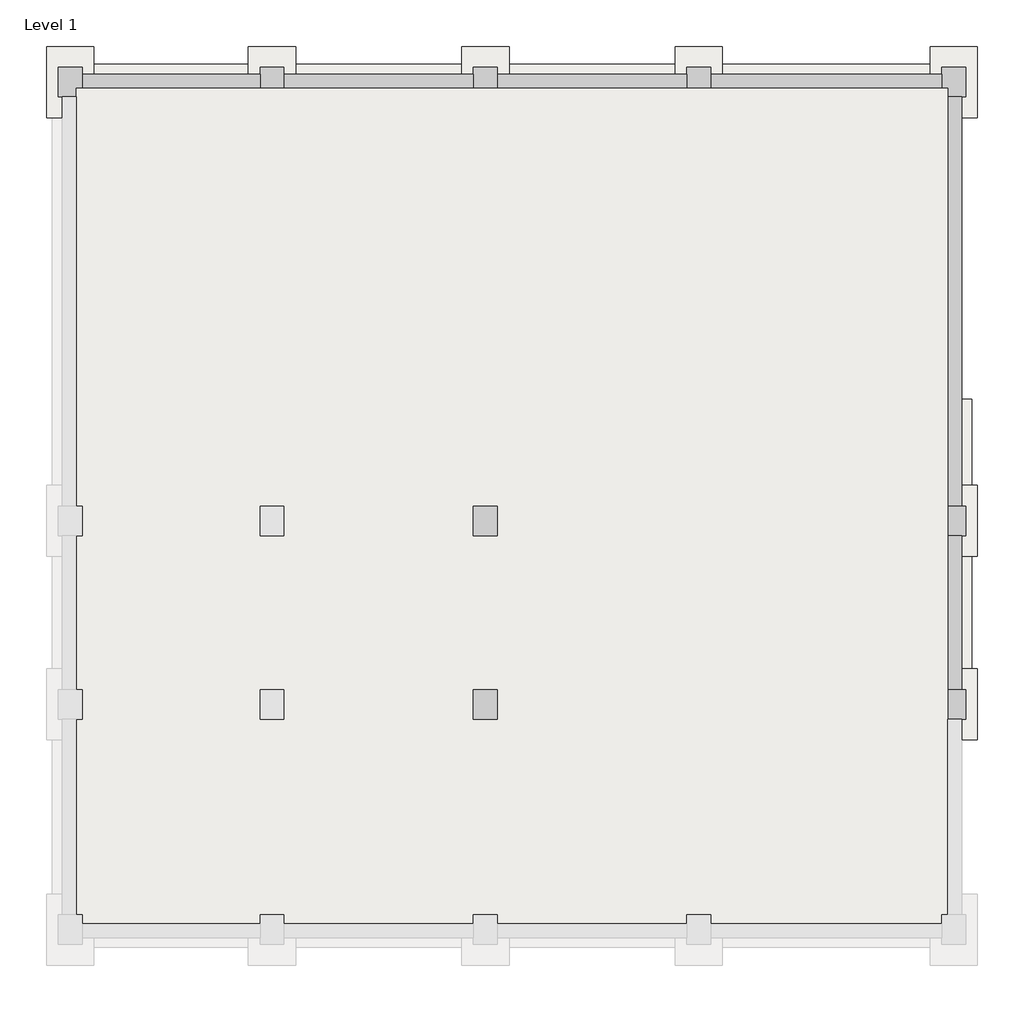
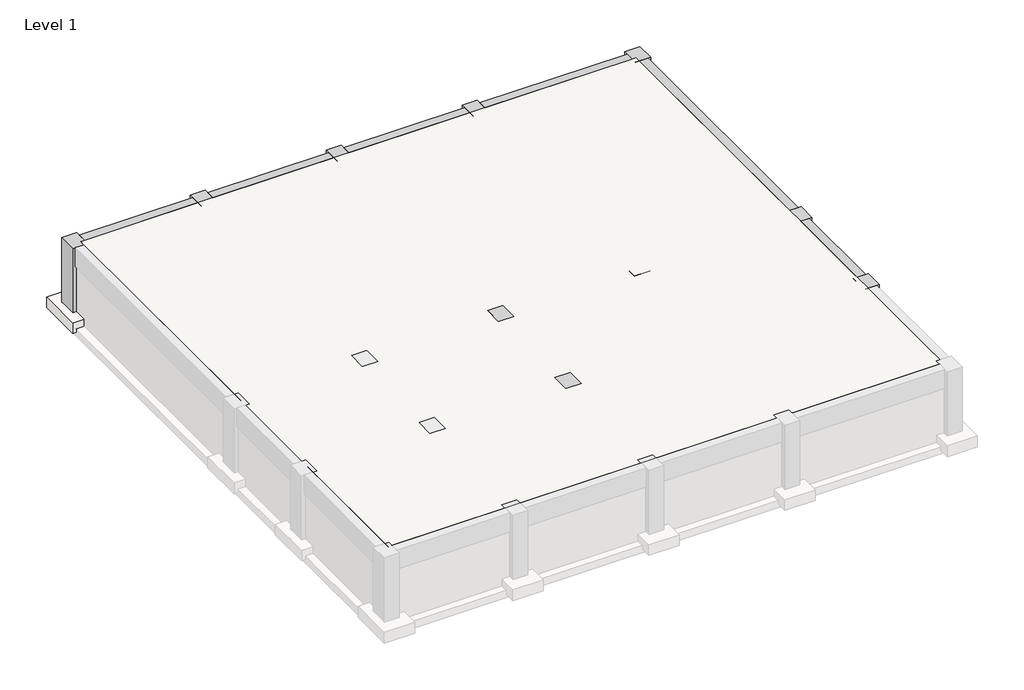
# One storey, part 2 of 2: 16 beams, 12 slabs, 11 columns, 2 footings.
"""IFC4 building model written with IfcOpenShell, lengths in millimetres."""

import ifcopenshell
import ifcopenshell.guid

model = None  # the IFC model being written
_history = None  # IfcOwnerHistory: only IFC2X3 demands one
_inside = {}  # id of a spatial element -> (the spatial element, [elements in it])
_under = {}  # id of a project, library or spatial element -> (it, [spatial elements below it])
_declared = {}  # id of a project -> (the project, [libraries it declares])
_typed = {}  # id of a type object -> (the type object, [elements of that type])
_made_of = {}  # id of a material, layer set ... -> (it, [elements and type objects made of it])


def new_model(schema):
    """Start an empty IFC model of exactly this schema.

    Asked for "IFC4X3", IfcOpenShell would pick the latest addendum, in which some entities
    have other attributes; the version numbers below select the first issue.
    IFC2X3 requires an IfcOwnerHistory on every rooted entity: one is made here for all.
    """
    global model, _history
    if schema == "IFC4X3":
        model = ifcopenshell.file(schema_version=(4, 3, 0, 0))
    else:
        model = ifcopenshell.file(schema=schema)
    _inside.clear()
    _under.clear()
    _declared.clear()
    _typed.clear()
    _made_of.clear()
    _history = None
    if model.schema == "IFC2X3":
        org = make("IfcOrganization", Name="unknown")
        user = make(
            "IfcPersonAndOrganization",
            ThePerson=make("IfcPerson", FamilyName="unknown"),
            TheOrganization=org,
        )
        app = make(
            "IfcApplication",
            ApplicationDeveloper=org,
            Version="unknown",
            ApplicationFullName="unknown",
            ApplicationIdentifier="unknown",
        )
        _history = make(
            "IfcOwnerHistory",
            OwningUser=user,
            OwningApplication=app,
            ChangeAction="ADDED",
            CreationDate=0,
        )
    return model


def make(cls, **values):
    """One entity of the class cls with the attributes given. An attribute that is None is left unset."""
    return model.create_entity(
        cls, **{name: value for name, value in values.items() if value is not None}
    )


def rooted(cls, **values):
    """An entity with a GlobalId (a new one), such as an element, a storey or a relation."""
    return make(cls, GlobalId=ifcopenshell.guid.new(), OwnerHistory=_history, **values)


def si_unit(unit_type, name, prefix=None):
    """IfcSIUnit, for example si_unit("LENGTHUNIT", "METRE", prefix="MILLI")."""
    return make("IfcSIUnit", UnitType=unit_type, Prefix=prefix, Name=name)


def assignment(units):
    """IfcUnitAssignment: the units of a project."""
    return None if units is None else make("IfcUnitAssignment", Units=units)


def point(xyz):
    """IfcCartesianPoint."""
    return None if xyz is None else make("IfcCartesianPoint", Coordinates=xyz)


def direction(xyz):
    """IfcDirection."""
    return None if xyz is None else make("IfcDirection", DirectionRatios=xyz)


def frame(location, z_axis=None, x_axis=None):
    """IfcAxis2Placement3D, a coordinate frame: its origin and axes. An axis left out is left unset."""
    return make(
        "IfcAxis2Placement3D",
        Location=point(location),
        Axis=direction(z_axis),
        RefDirection=direction(x_axis),
    )


def origin():
    """The frame at (0, 0, 0) with its axes left unset."""
    return frame((0.0, 0.0, 0.0))


def place(relative_to, where):
    """IfcLocalPlacement: puts the frame where relative to a parent placement (None: the world)."""
    return make(
        "IfcLocalPlacement", PlacementRelTo=relative_to, RelativePlacement=where
    )


def context(
    kind, dimensions, precision=None, world=None, true_north=None, identifier=None
):
    """IfcGeometricRepresentationContext, for example the 3D "Model" context."""
    return make(
        "IfcGeometricRepresentationContext",
        ContextIdentifier=identifier,
        ContextType=kind,
        CoordinateSpaceDimension=dimensions,
        Precision=precision,
        WorldCoordinateSystem=world,
        TrueNorth=true_north,
    )


def project(units=None, contexts=None):
    """IfcProject with its units and contexts."""
    return rooted(
        "IfcProject",
        Name="project",
        RepresentationContexts=contexts,
        UnitsInContext=assignment(units),
    )


def spatial(cls, under=None, at=None, **own):
    """A site, building, storey or space (cls), placed at a placement, below another one or the project."""
    s = rooted(cls, ObjectPlacement=at, **own)
    if under is not None:
        _under.setdefault(under.id(), (under, []))[1].append(s)
    return s


def polyline(points):
    """IfcPolyline through the points."""
    return make("IfcPolyline", Points=[point(p) for p in points])


def outline(outer, holes=None, kind="AREA"):
    """IfcArbitraryClosedProfileDef: a profile drawn as a closed curve; with holes, ...WithVoids."""
    if holes is None:
        return make("IfcArbitraryClosedProfileDef", ProfileType=kind, OuterCurve=outer)
    return make(
        "IfcArbitraryProfileDefWithVoids",
        ProfileType=kind,
        OuterCurve=outer,
        InnerCurves=holes,
    )


def extrude(swept, where, along, depth):
    """IfcExtrudedAreaSolid: the profile swept, set in the frame where, extruded along a direction by depth."""
    return make(
        "IfcExtrudedAreaSolid",
        SweptArea=swept,
        Position=where,
        ExtrudedDirection=direction(along),
        Depth=depth,
    )


def faces_of(points, faces, orient=None, outer=None):
    """IfcFace entities. A face is a list of loops; a loop is a list of indices into points, from 0.

    orient and outer hold one flag for each loop. By default every Orientation is true, the
    first loop of a face is its IfcFaceOuterBound and the others are IfcFaceBound.
    """
    made = []
    for i, loops in enumerate(faces):
        bounds = []
        for j, loop in enumerate(loops):
            is_outer = j == 0 if outer is None else outer[i][j]
            bounds.append(
                make(
                    "IfcFaceOuterBound" if is_outer else "IfcFaceBound",
                    Bound=make("IfcPolyLoop", Polygon=[points[k] for k in loop]),
                    Orientation=True if orient is None else orient[i][j],
                )
            )
        made.append(make("IfcFace", Bounds=bounds))
    return made


def faceted_brep(points, faces, orient=None, outer=None, voids=None):
    """IfcFacetedBrep: a solid bounded by flat faces; with voids (closed shells), ...WithVoids."""
    shared = [point(p) for p in points]
    hull = make("IfcClosedShell", CfsFaces=faces_of(shared, faces, orient, outer))
    if voids is None:
        return make("IfcFacetedBrep", Outer=hull)
    return make(
        "IfcFacetedBrepWithVoids",
        Outer=hull,
        Voids=[
            make(cls, CfsFaces=faces_of(shared, fs, o, b)) for cls, fs, o, b in voids
        ],
    )


def shape(context_of_items, identifier, shape_type, items):
    """IfcShapeRepresentation: the items that make up one representation, for example the "Body"."""
    return make(
        "IfcShapeRepresentation",
        ContextOfItems=context_of_items,
        RepresentationIdentifier=identifier,
        RepresentationType=shape_type,
        Items=items,
    )


def source(mapping_origin, context_of_items, identifier, shape_type, items):
    """IfcRepresentationMap: a shape defined once, which mapped items show again and again."""
    return make(
        "IfcRepresentationMap",
        MappingOrigin=mapping_origin,
        MappedRepresentation=shape(context_of_items, identifier, shape_type, items),
    )


def transform(
    local_origin,
    x_axis=None,
    y_axis=None,
    z_axis=None,
    scale=None,
    scale2=None,
    scale3=None,
    uniform=True,
):
    """IfcCartesianTransformationOperator3D, or its non-uniform kind. x_axis, y_axis, z_axis: its Axis1, 2, 3."""
    if uniform:
        return make(
            "IfcCartesianTransformationOperator3D",
            Axis1=direction(x_axis),
            Axis2=direction(y_axis),
            LocalOrigin=point(local_origin),
            Scale=scale,
            Axis3=direction(z_axis),
        )
    return make(
        "IfcCartesianTransformationOperator3DnonUniform",
        Axis1=direction(x_axis),
        Axis2=direction(y_axis),
        LocalOrigin=point(local_origin),
        Scale=scale,
        Axis3=direction(z_axis),
        Scale2=scale2,
        Scale3=scale3,
    )


def mapped(mapping_source, mapping_target):
    """IfcMappedItem: shows the shape of a source again, moved by a transform."""
    return make(
        "IfcMappedItem", MappingSource=mapping_source, MappingTarget=mapping_target
    )


def made_of(thing, what):
    """Note that an element or type object is made of a material, layer set ...; save() writes the relation."""
    if what is not None:
        _made_of.setdefault(what.id(), (what, []))[1].append(thing)
    return thing


def element(
    cls,
    number,
    at=None,
    inside=None,
    cuts=None,
    type_object=None,
    material=None,
    context=None,
    identifier="Body",
    shape_type=None,
    held_by="IfcProductDefinitionShape",
    body=None,
    shapes=None,
    **own,
):
    """One element of the class cls, such as IfcWall. Its Tag is "e" and its number.

    at: its placement. inside: the storey or other place that contains it. cuts: it is an
    opening in that element (IfcRelVoidsElement). A single representation is given by context,
    identifier, shape_type and body (its items); several are given by shapes. held_by: the class
    of the entity that holds the representations. save() writes the other relations.
    """
    e = rooted(cls, Tag="e%d" % number, ObjectPlacement=at, **own)
    if body is not None:
        shapes = [shape(context, identifier, shape_type, body)]
    if shapes is not None:
        e.Representation = make(held_by, Representations=shapes)
    if inside is not None:
        _inside.setdefault(inside.id(), (inside, []))[1].append(e)
    if cuts is not None:
        rooted(
            "IfcRelVoidsElement", RelatingBuildingElement=cuts, RelatedOpeningElement=e
        )
    if type_object is not None:
        _typed.setdefault(type_object.id(), (type_object, []))[1].append(e)
    return made_of(e, material)


def aggregate(whole, parts):
    """IfcRelAggregates: a whole, such as a stair, and the parts it consists of."""
    return rooted("IfcRelAggregates", RelatingObject=whole, RelatedObjects=parts)


def save(model, path):
    """Write the relations noted so far, then the file.

    IfcRelAggregates (storeys below a building ...), IfcRelContainedInSpatialStructure (elements
    in a storey), IfcRelDefinesByType, IfcRelAssociatesMaterial and IfcRelDeclares: one each for
    every whole, place, type object, material and project.
    """
    for whole, parts in _under.values():
        aggregate(whole, parts)
    for where, things in _inside.values():
        rooted(
            "IfcRelContainedInSpatialStructure",
            RelatedElements=things,
            RelatingStructure=where,
        )
    for kind, things in _typed.values():
        rooted("IfcRelDefinesByType", RelatedObjects=things, RelatingType=kind)
    for what, things in _made_of.values():
        rooted("IfcRelAssociatesMaterial", RelatedObjects=things, RelatingMaterial=what)
    for by, libraries in _declared.values():
        rooted("IfcRelDeclares", RelatingContext=by, RelatedDefinitions=libraries)
    model.write(path)


def slab_5ba74754(model_context):
    return source(origin(), model_context, "Body", "SweptSolid", [
        extrude(outline(polyline([(609.6, 914.4), (609.6, -914.4), (-609.6, -914.4), (-609.6, 914.4), (609.6, 914.4)])), frame((0.0, 0.0, -457.2), z_axis=(0.0, 0.0, 1.0), x_axis=(1.0, 0.0, 0.0)), (0.0, 0.0, 1.0), 457.2),
    ])


model = new_model("IFC4")

# Units and contexts
model_context = context("Model", 3, world=origin())
ifc_project = project(units=[si_unit("LENGTHUNIT", "METRE", prefix="MILLI")], contexts=[model_context])

# Site, building, storey
site = spatial("IfcSite", under=ifc_project)
building = spatial("IfcBuilding", under=site)
storey = spatial("IfcBuildingStorey", under=building, Name="Level 1", Elevation=0.0)

# Beams
placement = place(None, origin())
element("IfcBeam", 1, ObjectType="Concrete-Rectangular Beam : 16 x 32", at=placement, inside=storey, context=model_context, shape_type="SweptSolid", body=[
    extrude(outline(polyline([(-812.8, 14.5563486), (0.0, 14.5563486), (0.0, -341.0436514), (-152.4, -341.0436514), (-152.4, -391.8436514), (-812.8, -391.8436514), (-812.8, -341.0436514), (-609.6, -341.0436514), (-609.6, -36.2436514), (-812.8, -36.2436514), (-812.8, 14.5563486)])), frame((0.0, 642.1775522, 0.0), z_axis=(0.0, 1.0, 0.0), x_axis=(0.0, 0.0, 1.0)), (0.0, 0.0, 1.0), 3953.7717631),
])
element("IfcBeam", 2, ObjectType="Concrete-Rectangular Beam : 16 x 32", at=placement, inside=storey, context=model_context, shape_type="Brep", body=[
    faceted_brep([(14.5563486, 5357.9493152, 0.0), (14.5563486, 15873.7607436, 0.0), (-341.0436514, 15873.7607436, 0.0), (-341.0436514, 5357.9493152, 0.0), (14.5563486, 5357.9493152, -812.8), (14.5563486, 15873.7607436, -812.8), (-36.2436514, 5357.9493152, -812.8), (-36.2436514, 8109.7775522, -812.8), (-341.0436514, 8109.7775522, -812.8), (-341.0436514, 5357.9493152, -812.8), (-391.8436514, 5357.9493152, -812.8), (-391.8436514, 15873.7607436, -812.8), (-391.8436514, 5357.9493152, -152.4), (-391.8436514, 15873.7607436, -152.4), (-341.0436514, 15873.7607436, -152.4), (-341.0436514, 5357.9493152, -152.4), (-341.0436514, 5357.9493152, -609.6), (-36.2436514, 5357.9493152, -609.6), (-341.0436514, 8109.7775522, -609.6), (-36.2436514, 8109.7775522, -609.6)], [[[0, 1, 2, 3]], [[1, 0, 4, 5]], [[5, 4, 6, 7, 8, 9, 10, 11]], [[11, 10, 12, 13]], [[1, 5, 11, 13, 14, 2]], [[4, 0, 3, 15, 12, 10, 9, 16, 17, 6]], [[15, 14, 13, 12]], [[14, 15, 3, 2]], [[8, 18, 16, 9]], [[17, 19, 7, 6]], [[18, 19, 17, 16]], [[19, 18, 8, 7]]]),
])
element("IfcBeam", 3, ObjectType="Concrete-Rectangular Beam : 16 x 32", at=placement, inside=storey, context=model_context, shape_type="SweptSolid", body=[
    extrude(outline(polyline([(16457.9607436, 0.0), (16457.9607436, -812.8), (16407.1607436, -812.8), (16407.1607436, -609.6), (16102.3607436, -609.6), (16102.3607436, -812.8), (16051.5607436, -812.8), (16051.5607436, -152.4), (16102.3607436, -152.4), (16102.3607436, 0.0), (16457.9607436, 0.0)])), frame((-22591.4436514, 0.0, 0.0), z_axis=(1.0, 0.0, 0.0), x_axis=(0.0, 1.0, 0.0)), (0.0, 0.0, 1.0), 4572.0),
])
element("IfcBeam", 4, ObjectType="Concrete-Rectangular Beam : 16 x 32", at=placement, inside=storey, context=model_context, shape_type="SweptSolid", body=[
    extrude(outline(polyline([(16457.9607436, 0.0), (16457.9607436, -812.8), (16407.1607436, -812.8), (16407.1607436, -609.6), (16102.3607436, -609.6), (16102.3607436, -812.8), (16051.5607436, -812.8), (16051.5607436, -152.4), (16102.3607436, -152.4), (16102.3607436, 0.0), (16457.9607436, 0.0)])), frame((-17409.8436514, 0.0, 0.0), z_axis=(1.0, 0.0, 0.0), x_axis=(0.0, 1.0, 0.0)), (0.0, 0.0, 1.0), 4876.8),
])
element("IfcBeam", 5, ObjectType="Concrete-Rectangular Beam : 16 x 32", at=placement, inside=storey, context=model_context, shape_type="SweptSolid", body=[
    extrude(outline(polyline([(16457.9607436, 0.0), (16457.9607436, -812.8), (16407.1607436, -812.8), (16407.1607436, -609.6), (16102.3607436, -609.6), (16102.3607436, -812.8), (16051.5607436, -812.8), (16051.5607436, -152.4), (16102.3607436, -152.4), (16102.3607436, 0.0), (16457.9607436, 0.0)])), frame((-11923.4436514, 0.0, 0.0), z_axis=(1.0, 0.0, 0.0), x_axis=(0.0, 1.0, 0.0)), (0.0, 0.0, 1.0), 4876.8),
])
element("IfcBeam", 6, ObjectType="Concrete-Rectangular Beam : 16 x 32", at=placement, inside=storey, context=model_context, shape_type="SweptSolid", body=[
    extrude(outline(polyline([(16457.9607436, 0.0), (16457.9607436, -812.8), (16407.1607436, -812.8), (16407.1607436, -609.6), (16102.3607436, -609.6), (16102.3607436, -812.8), (16051.5607436, -812.8), (16051.5607436, -152.4), (16102.3607436, -152.4), (16102.3607436, 0.0), (16457.9607436, 0.0)])), frame((-6437.0436514, 0.0, 0.0), z_axis=(1.0, 0.0, 0.0), x_axis=(0.0, 1.0, 0.0)), (0.0, 0.0, 1.0), 5943.6),
])
element("IfcBeam", 7, ObjectType="Concrete-Rectangular Beam : 16 x 32", at=placement, inside=storey, context=model_context, shape_type="SweptSolid", body=[
    extrude(outline(polyline([(-12431.4436514, 5357.9493152), (-12431.4436514, 15873.7607436), (-12025.0436514, 15873.7607436), (-12025.0436514, 5357.9493152), (-12431.4436514, 5357.9493152)])), frame((0.0, 0.0, -812.8), z_axis=(0.0, 0.0, 1.0), x_axis=(1.0, 0.0, 0.0)), (0.0, 0.0, 1.0), 660.4),
])
element("IfcBeam", 8, ObjectType="Concrete-Rectangular Beam : 16 x 32", at=placement, inside=storey, context=model_context, shape_type="SweptSolid", body=[
    extrude(outline(polyline([(-12431.4436514, 4595.9493152), (-12025.0436514, 4595.9493152), (-12025.0436514, 642.1775522), (-12431.4436514, 642.1775522), (-12431.4436514, 4595.9493152)])), frame((0.0, 0.0, -812.8), z_axis=(0.0, 0.0, 1.0), x_axis=(1.0, 0.0, 0.0)), (0.0, 0.0, 1.0), 660.4),
])
element("IfcBeam", 9, ObjectType="Concrete-Rectangular Beam : 16 x 32", at=placement, inside=storey, context=model_context, shape_type="SweptSolid", body=[
    extrude(outline(polyline([(-6945.0436514, 5357.9493152), (-6945.0436514, 15873.7607436), (-6538.6436514, 15873.7607436), (-6538.6436514, 5357.9493152), (-6945.0436514, 5357.9493152)])), frame((0.0, 0.0, -812.8), z_axis=(0.0, 0.0, 1.0), x_axis=(1.0, 0.0, 0.0)), (0.0, 0.0, 1.0), 660.4),
])
element("IfcBeam", 10, ObjectType="Concrete-Rectangular Beam : 16 x 32", at=placement, inside=storey, context=model_context, shape_type="SweptSolid", body=[
    extrude(outline(polyline([(-6945.0436514, 4595.9493152), (-6538.6436514, 4595.9493152), (-6538.6436514, 642.1775522), (-6945.0436514, 642.1775522), (-6945.0436514, 4595.9493152)])), frame((0.0, 0.0, -812.8), z_axis=(0.0, 0.0, 1.0), x_axis=(1.0, 0.0, 0.0)), (0.0, 0.0, 1.0), 660.4),
])
element("IfcBeam", 11, ObjectType="Concrete-Rectangular Beam : 16 x 32", at=placement, inside=storey, context=model_context, shape_type="SweptSolid", body=[
    extrude(outline(polyline([(-17409.8436514, 4773.7493152), (-17409.8436514, 5180.1493152), (-12533.0436514, 5180.1493152), (-12533.0436514, 4773.7493152), (-17409.8436514, 4773.7493152)])), frame((0.0, 0.0, -812.8), z_axis=(0.0, 0.0, 1.0), x_axis=(1.0, 0.0, 0.0)), (0.0, 0.0, 1.0), 660.4),
])
element("IfcBeam", 12, ObjectType="Concrete-Rectangular Beam : 16 x 32", at=placement, inside=storey, context=model_context, shape_type="SweptSolid", body=[
    extrude(outline(polyline([(-11923.4436514, 4773.7493152), (-11923.4436514, 5180.1493152), (-7046.6436514, 5180.1493152), (-7046.6436514, 4773.7493152), (-11923.4436514, 4773.7493152)])), frame((0.0, 0.0, -812.8), z_axis=(0.0, 0.0, 1.0), x_axis=(1.0, 0.0, 0.0)), (0.0, 0.0, 1.0), 660.4),
])
element("IfcBeam", 13, ObjectType="Concrete-Rectangular Beam : 16 x 32", at=placement, inside=storey, context=model_context, shape_type="SweptSolid", body=[
    extrude(outline(polyline([(-6437.0436514, 4773.7493152), (-6437.0436514, 5180.1493152), (-493.4436514, 5180.1493152), (-493.4436514, 4773.7493152), (-6437.0436514, 4773.7493152)])), frame((0.0, 0.0, -812.8), z_axis=(0.0, 0.0, 1.0), x_axis=(1.0, 0.0, 0.0)), (0.0, 0.0, 1.0), 660.4),
])
element("IfcBeam", 14, ObjectType="Concrete-Rectangular Beam : 16 x 32", at=placement, inside=storey, context=model_context, shape_type="SweptSolid", body=[
    extrude(outline(polyline([(-17409.8436514, 57.9775522), (-17409.8436514, 464.3775522), (-12533.0436514, 464.3775522), (-12533.0436514, 57.9775522), (-17409.8436514, 57.9775522)])), frame((0.0, 0.0, -812.8), z_axis=(0.0, 0.0, 1.0), x_axis=(1.0, 0.0, 0.0)), (0.0, 0.0, 1.0), 660.4),
])
element("IfcBeam", 15, ObjectType="Concrete-Rectangular Beam : 16 x 32", at=placement, inside=storey, context=model_context, shape_type="SweptSolid", body=[
    extrude(outline(polyline([(-11923.4436514, 57.9775522), (-11923.4436514, 464.3775522), (-7046.6436514, 464.3775522), (-7046.6436514, 57.9775522), (-11923.4436514, 57.9775522)])), frame((0.0, 0.0, -812.8), z_axis=(0.0, 0.0, 1.0), x_axis=(1.0, 0.0, 0.0)), (0.0, 0.0, 1.0), 660.4),
])
element("IfcBeam", 16, ObjectType="Concrete-Rectangular Beam : 16 x 32", at=placement, inside=storey, context=model_context, shape_type="SweptSolid", body=[
    extrude(outline(polyline([(-6437.0436514, 57.9775522), (-6437.0436514, 464.3775522), (-493.4436514, 464.3775522), (-493.4436514, 57.9775522), (-6437.0436514, 57.9775522)])), frame((0.0, 0.0, -812.8), z_axis=(0.0, 0.0, 1.0), x_axis=(1.0, 0.0, 0.0)), (0.0, 0.0, 1.0), 660.4),
])

# Columns
element("IfcColumn", 17, ObjectType="Concrete-Rectangular-Column : 24 x 30", at=placement, inside=storey, context=model_context, shape_type="Brep", body=[
    faceted_brep([(-23201.0436514, 15873.7607436, -2743.2), (-23201.0436514, 16635.7607436, -2743.2), (-22591.4436514, 16635.7607436, -2743.2), (-22591.4436514, 16407.1607436, -2743.2), (-23048.6436514, 16407.1607436, -2743.2), (-23048.6436514, 15873.7607436, -2743.2), (-22591.4436514, 16635.7607436, 0.0), (-22591.4436514, 15873.7607436, 0.0), (-22591.4436514, 15873.7607436, -2743.2), (-22591.4436514, 16102.3607436, -2743.2), (-22591.4436514, 16102.3607436, -609.6), (-22591.4436514, 16407.1607436, -609.6), (-23201.0436514, 15873.7607436, 0.0), (-23048.6436514, 15873.7607436, -609.6), (-22743.8436514, 15873.7607436, -609.6), (-22743.8436514, 15873.7607436, -2743.2), (-23201.0436514, 16635.7607436, 0.0), (-22743.8436514, 16102.3607436, -2743.2), (-22743.8436514, 16102.3607436, -609.6), (-23048.6436514, 16407.1607436, -609.6), (-23048.6436514, 16102.3607436, -609.6)], [[[0, 1, 2, 3, 4, 5]], [[6, 7, 8, 9, 10, 11, 3, 2]], [[8, 7, 12, 0, 5, 13, 14, 15]], [[1, 0, 12, 16]], [[2, 1, 16, 6]], [[7, 6, 16, 12]], [[10, 9, 17, 18]], [[11, 19, 4, 3]], [[19, 11, 10, 18, 14, 13, 20]], [[19, 20, 13, 5, 4]], [[14, 18, 17, 15]], [[9, 8, 15, 17]]]),
])
element("IfcColumn", 18, ObjectType="Concrete-Rectangular-Column : 24 x 30", at=placement, inside=storey, context=model_context, shape_type="SweptSolid", body=[
    extrude(outline(polyline([(15873.7607436, -2743.2), (15873.7607436, 0.0), (16635.7607436, 0.0), (16635.7607436, -2743.2), (16407.1607436, -2743.2), (16407.1607436, -609.6), (16102.3607436, -609.6), (16102.3607436, -2743.2), (15873.7607436, -2743.2)])), frame((-18019.4436514, 0.0, 0.0), z_axis=(1.0, 0.0, 0.0), x_axis=(0.0, 1.0, 0.0)), (0.0, 0.0, 1.0), 609.6),
])
element("IfcColumn", 19, ObjectType="Concrete-Rectangular-Column : 24 x 30", at=placement, inside=storey, context=model_context, shape_type="SweptSolid", body=[
    extrude(outline(polyline([(15873.7607436, -2743.2), (15873.7607436, 0.0), (16635.7607436, 0.0), (16635.7607436, -2743.2), (16407.1607436, -2743.2), (16407.1607436, -609.6), (16102.3607436, -609.6), (16102.3607436, -2743.2), (15873.7607436, -2743.2)])), frame((-12533.0436514, 0.0, 0.0), z_axis=(1.0, 0.0, 0.0), x_axis=(0.0, 1.0, 0.0)), (0.0, 0.0, 1.0), 609.6),
])
element("IfcColumn", 20, ObjectType="Concrete-Rectangular-Column : 24 x 30", at=placement, inside=storey, context=model_context, shape_type="SweptSolid", body=[
    extrude(outline(polyline([(15873.7607436, -2743.2), (15873.7607436, 0.0), (16635.7607436, 0.0), (16635.7607436, -2743.2), (16407.1607436, -2743.2), (16407.1607436, -609.6), (16102.3607436, -609.6), (16102.3607436, -2743.2), (15873.7607436, -2743.2)])), frame((-7046.6436514, 0.0, 0.0), z_axis=(1.0, 0.0, 0.0), x_axis=(0.0, 1.0, 0.0)), (0.0, 0.0, 1.0), 609.6),
])
element("IfcColumn", 21, ObjectType="Concrete-Rectangular-Column : 24 x 30", at=placement, inside=storey, context=model_context, shape_type="Brep", body=[
    faceted_brep([(116.1563486, 16635.7607436, -2743.2), (116.1563486, 15873.7607436, -2743.2), (-493.4436514, 15873.7607436, -2743.2), (-493.4436514, 16102.3607436, -2743.2), (-188.6436514, 16102.3607436, -2743.2), (-188.6436514, 16407.1607436, -2743.2), (-493.4436514, 16407.1607436, -2743.2), (-493.4436514, 16635.7607436, -2743.2), (116.1563486, 16635.7607436, 0.0), (116.1563486, 15873.7607436, 0.0), (-493.4436514, 15873.7607436, 0.0), (-493.4436514, 16635.7607436, 0.0), (-493.4436514, 16407.1607436, -609.6), (-493.4436514, 16102.3607436, -609.6), (-188.6436514, 16102.3607436, -609.6), (-188.6436514, 16407.1607436, -609.6)], [[[0, 1, 2, 3, 4, 5, 6, 7]], [[1, 0, 8, 9]], [[2, 1, 9, 10]], [[2, 10, 11, 7, 6, 12, 13, 3]], [[0, 7, 11, 8]], [[9, 8, 11, 10]], [[13, 14, 4, 3]], [[5, 15, 12, 6]], [[15, 14, 13, 12]], [[14, 15, 5, 4]]]),
])
element("IfcColumn", 22, ObjectType="Concrete-Rectangular-Column : 24 x 30", at=placement, inside=storey, context=model_context, shape_type="SweptSolid", body=[
    extrude(outline(polyline([(-11923.4436514, 5357.9493152), (-11923.4436514, 4595.9493152), (-12533.0436514, 4595.9493152), (-12533.0436514, 5357.9493152), (-11923.4436514, 5357.9493152)])), frame((0.0, 0.0, -2743.2), z_axis=(0.0, 0.0, 1.0), x_axis=(1.0, 0.0, 0.0)), (0.0, 0.0, 1.0), 2743.2),
])
element("IfcColumn", 23, ObjectType="Concrete-Rectangular-Column : 24 x 30", at=placement, inside=storey, context=model_context, shape_type="SweptSolid", body=[
    extrude(outline(polyline([(-6437.0436514, 5357.9493152), (-6437.0436514, 4595.9493152), (-7046.6436514, 4595.9493152), (-7046.6436514, 5357.9493152), (-6437.0436514, 5357.9493152)])), frame((0.0, 0.0, -2743.2), z_axis=(0.0, 0.0, 1.0), x_axis=(1.0, 0.0, 0.0)), (0.0, 0.0, 1.0), 2743.2),
])
element("IfcColumn", 24, ObjectType="Concrete-Rectangular-Column : 24 x 30", at=placement, inside=storey, context=model_context, shape_type="SweptSolid", body=[
    extrude(outline(polyline([(-2743.2, 116.1563486), (0.0, 116.1563486), (0.0, -493.4436514), (-2743.2, -493.4436514), (-2743.2, -341.0436514), (-609.6, -341.0436514), (-609.6, -36.2436514), (-2743.2, -36.2436514), (-2743.2, 116.1563486)])), frame((0.0, 4595.9493152, 0.0), z_axis=(0.0, 1.0, 0.0), x_axis=(0.0, 0.0, 1.0)), (0.0, 0.0, 1.0), 762.0),
])
element("IfcColumn", 25, ObjectType="Concrete-Rectangular-Column : 24 x 30", at=placement, inside=storey, context=model_context, shape_type="SweptSolid", body=[
    extrude(outline(polyline([(-11923.4436514, 642.1775522), (-11923.4436514, -119.8224478), (-12533.0436514, -119.8224478), (-12533.0436514, 642.1775522), (-11923.4436514, 642.1775522)])), frame((0.0, 0.0, -2743.2), z_axis=(0.0, 0.0, 1.0), x_axis=(1.0, 0.0, 0.0)), (0.0, 0.0, 1.0), 2743.2),
])
element("IfcColumn", 26, ObjectType="Concrete-Rectangular-Column : 24 x 30", at=placement, inside=storey, context=model_context, shape_type="SweptSolid", body=[
    extrude(outline(polyline([(-6437.0436514, 642.1775522), (-6437.0436514, -119.8224478), (-7046.6436514, -119.8224478), (-7046.6436514, 642.1775522), (-6437.0436514, 642.1775522)])), frame((0.0, 0.0, -2743.2), z_axis=(0.0, 0.0, 1.0), x_axis=(1.0, 0.0, 0.0)), (0.0, 0.0, 1.0), 2743.2),
])
element("IfcColumn", 27, ObjectType="Concrete-Rectangular-Column : 24 x 30", at=placement, inside=storey, context=model_context, shape_type="SweptSolid", body=[
    extrude(outline(polyline([(-2743.2, 116.1563486), (0.0, 116.1563486), (0.0, -493.4436514), (-2743.2, -493.4436514), (-2743.2, -341.0436514), (-609.6, -341.0436514), (-609.6, -36.2436514), (-2743.2, -36.2436514), (-2743.2, 116.1563486)])), frame((0.0, -119.8224478, 0.0), z_axis=(0.0, 1.0, 0.0), x_axis=(0.0, 0.0, 1.0)), (0.0, 0.0, 1.0), 762.0),
])

# Footings
element("IfcFooting", 28, ObjectType="Bearing Footing - 36\" x 12\"", at=placement, inside=storey, context=model_context, shape_type="Brep", body=[
    faceted_brep([(-188.6436514, 15797.5607436, -3352.8), (-188.6436514, 16711.9607436, -3352.8), (-188.6436514, 16711.9607436, -3200.4), (-188.6436514, 15797.5607436, -3200.4), (-22286.6436514, 16711.9607436, -3048.0), (-22286.6436514, 15797.5607436, -3048.0), (-18324.2436514, 15797.5607436, -3048.0), (-18324.2436514, 16711.9607436, -3048.0), (-17105.0436514, 16711.9607436, -3048.0), (-17105.0436514, 15797.5607436, -3048.0), (-12837.8436514, 15797.5607436, -3048.0), (-12837.8436514, 16711.9607436, -3048.0), (-11618.6436514, 16711.9607436, -3048.0), (-11618.6436514, 15797.5607436, -3048.0), (-7351.4436514, 15797.5607436, -3048.0), (-7351.4436514, 16711.9607436, -3048.0), (-6132.2436514, 16711.9607436, -3048.0), (-6132.2436514, 15797.5607436, -3048.0), (-798.2436514, 15797.5607436, -3048.0), (-798.2436514, 16711.9607436, -3048.0), (-23353.4436514, 16711.9607436, -3352.8), (-23353.4436514, 16711.9607436, -3200.4), (-22286.6436514, 16711.9607436, -3200.4), (-18324.2436514, 16711.9607436, -3200.4), (-17105.0436514, 16711.9607436, -3200.4), (-12837.8436514, 16711.9607436, -3200.4), (-11618.6436514, 16711.9607436, -3200.4), (-7351.4436514, 16711.9607436, -3200.4), (-6132.2436514, 16711.9607436, -3200.4), (-798.2436514, 16711.9607436, -3200.4), (-22439.0436514, 15797.5607436, -3352.8), (-23353.4436514, 15797.5607436, -3352.8), (-798.2436514, 15797.5607436, -3200.4), (-6132.2436514, 15797.5607436, -3200.4), (-7351.4436514, 15797.5607436, -3200.4), (-11618.6436514, 15797.5607436, -3200.4), (-12837.8436514, 15797.5607436, -3200.4), (-17105.0436514, 15797.5607436, -3200.4), (-18324.2436514, 15797.5607436, -3200.4), (-22286.6436514, 15797.5607436, -3200.4), (-22439.0436514, 15797.5607436, -3200.4), (-23353.4436514, 15797.5607436, -3200.4)], [[[0, 1, 2, 3]], [[4, 5, 6, 7]], [[8, 9, 10, 11]], [[12, 13, 14, 15]], [[16, 17, 18, 19]], [[1, 20, 21, 22, 4, 7, 23, 24, 8, 11, 25, 26, 12, 15, 27, 28, 16, 19, 29, 2]], [[1, 0, 30, 31, 20]], [[31, 30, 0, 3, 32, 18, 17, 33, 34, 14, 13, 35, 36, 10, 9, 37, 38, 6, 5, 39, 40, 41]], [[39, 22, 21, 41, 40]], [[22, 39, 5, 4]], [[23, 38, 37, 24]], [[38, 23, 7, 6]], [[24, 37, 9, 8]], [[25, 36, 35, 26]], [[36, 25, 11, 10]], [[26, 35, 13, 12]], [[27, 34, 33, 28]], [[34, 27, 15, 14]], [[28, 33, 17, 16]], [[29, 32, 3, 2]], [[32, 29, 19, 18]], [[20, 31, 41, 21]]]),
])
element("IfcFooting", 29, ObjectType="Bearing Footing - 36\" x 12\"", at=placement, inside=storey, context=model_context, shape_type="SweptSolid", body=[
    extrude(outline(polyline([(8109.7775522, -3048.0), (8109.7775522, -3352.8), (-119.8224478, -3352.8), (-119.8224478, -3200.4), (1175.5775522, -3200.4), (1175.5775522, -3048.0), (4062.5493152, -3048.0), (4062.5493152, -3200.4), (5891.3493152, -3200.4), (5891.3493152, -3048.0), (8109.7775522, -3048.0)])), frame((-645.8436514, 0.0, 0.0), z_axis=(1.0, 0.0, 0.0), x_axis=(0.0, 1.0, 0.0)), (0.0, 0.0, 1.0), 914.4),
])

# Slabs
element("IfcSlab", 30, ObjectType="6\" Foundation Slab", at=placement, inside=storey, context=model_context, shape_type="Brep", body=[
    faceted_brep([(-341.0436514, 16102.3607436, -152.4), (-341.0436514, 15873.7607436, -152.4), (-341.0436514, 5357.9493152, -152.4), (-341.0436514, 4595.9493152, -152.4), (-341.0436514, 642.1775522, -152.4), (-341.0436514, -119.8224478, -152.4), (-341.0436514, -5149.0224478, -152.4), (-341.0436514, -5377.6224478, -152.4), (-493.4436514, -5377.6224478, -152.4), (-6437.0436514, -5377.6224478, -152.4), (-7046.6436514, -5377.6224478, -152.4), (-11923.4436514, -5377.6224478, -152.4), (-12533.0436514, -5377.6224478, -152.4), (-17409.8436514, -5377.6224478, -152.4), (-18019.4436514, -5377.6224478, -152.4), (-22591.4436514, -5377.6224478, -152.4), (-22743.8436514, -5377.6224478, -152.4), (-22743.8436514, -5149.0224478, -152.4), (-22743.8436514, -119.8224478, -152.4), (-22743.8436514, 642.1775522, -152.4), (-22743.8436514, 4595.9493152, -152.4), (-22743.8436514, 5357.9493152, -152.4), (-22743.8436514, 15873.7607436, -152.4), (-22743.8436514, 16102.3607436, -152.4), (-22591.4436514, 16102.3607436, -152.4), (-18019.4436514, 16102.3607436, -152.4), (-17409.8436514, 16102.3607436, -152.4), (-12533.0436514, 16102.3607436, -152.4), (-11923.4436514, 16102.3607436, -152.4), (-7046.6436514, 16102.3607436, -152.4), (-6437.0436514, 16102.3607436, -152.4), (-493.4436514, 16102.3607436, -152.4), (-341.0436514, 16102.3607436, 0.0), (-493.4436514, 16102.3607436, 0.0), (-6437.0436514, 16102.3607436, 0.0), (-7046.6436514, 16102.3607436, 0.0), (-11923.4436514, 16102.3607436, 0.0), (-12533.0436514, 16102.3607436, 0.0), (-17409.8436514, 16102.3607436, 0.0), (-18019.4436514, 16102.3607436, 0.0), (-22591.4436514, 16102.3607436, 0.0), (-22743.8436514, 16102.3607436, 0.0), (-22743.8436514, 15873.7607436, 0.0), (-22743.8436514, 5357.9493152, 0.0), (-22743.8436514, 4595.9493152, 0.0), (-22743.8436514, 642.1775522, 0.0), (-22743.8436514, -119.8224478, 0.0), (-22743.8436514, -5149.0224478, 0.0), (-22743.8436514, -5377.6224478, 0.0), (-22591.4436514, -5377.6224478, 0.0), (-18019.4436514, -5377.6224478, 0.0), (-17409.8436514, -5377.6224478, 0.0), (-12533.0436514, -5377.6224478, 0.0), (-11923.4436514, -5377.6224478, 0.0), (-7046.6436514, -5377.6224478, 0.0), (-6437.0436514, -5377.6224478, 0.0), (-493.4436514, -5377.6224478, 0.0), (-341.0436514, -5377.6224478, 0.0), (-341.0436514, -5149.0224478, 0.0), (-341.0436514, -119.8224478, 0.0), (-341.0436514, 642.1775522, 0.0), (-341.0436514, 4595.9493152, 0.0), (-341.0436514, 5357.9493152, 0.0), (-341.0436514, 15873.7607436, 0.0)], [[[0, 1, 2, 3, 4, 5, 6, 7, 8, 9, 10, 11, 12, 13, 14, 15, 16, 17, 18, 19, 20, 21, 22, 23, 24, 25, 26, 27, 28, 29, 30, 31]], [[32, 33, 34, 35, 36, 37, 38, 39, 40, 41, 42, 43, 44, 45, 46, 47, 48, 49, 50, 51, 52, 53, 54, 55, 56, 57, 58, 59, 60, 61, 62, 63]], [[7, 6, 5, 4, 3, 2, 1, 0, 32, 63, 62, 61, 60, 59, 58, 57]], [[16, 15, 14, 13, 12, 11, 10, 9, 8, 7, 57, 56, 55, 54, 53, 52, 51, 50, 49, 48]], [[23, 22, 21, 20, 19, 18, 17, 16, 48, 47, 46, 45, 44, 43, 42, 41]], [[0, 31, 30, 29, 28, 27, 26, 25, 24, 23, 41, 40, 39, 38, 37, 36, 35, 34, 33, 32]]]),
])
element("IfcSlab", 31, ObjectType="Footing-Rectangular : 72\" x 48\" x 18\"", at=placement, inside=storey, context=model_context, shape_type="Brep", body=[
    faceted_brep([(-22286.6436514, 17169.1607436, -2743.2), (-23505.8436514, 17169.1607436, -2743.2), (-23505.8436514, 15340.3607436, -2743.2), (-22286.6436514, 15340.3607436, -2743.2), (-22286.6436514, 17169.1607436, -3200.4), (-22286.6436514, 16711.9607436, -3200.4), (-22286.6436514, 15797.5607436, -3200.4), (-22286.6436514, 15340.3607436, -3200.4), (-22439.0436514, 15340.3607436, -3200.4), (-23353.4436514, 15340.3607436, -3200.4), (-23505.8436514, 15340.3607436, -3200.4), (-23505.8436514, 17169.1607436, -3200.4)], [[[0, 1, 2, 3]], [[4, 5, 6, 7, 8, 9, 10, 11]], [[1, 0, 4, 11]], [[2, 1, 11, 10]], [[3, 2, 10, 9, 8, 7]], [[0, 3, 7, 6, 5, 4]]]),
])
element("IfcSlab", 32, ObjectType="Footing-Rectangular : 72\" x 48\" x 18\"", at=placement, inside=storey, context=model_context, shape_type="Brep", body=[
    faceted_brep([(-17105.0436514, 17169.1607436, -2743.2), (-18324.2436514, 17169.1607436, -2743.2), (-18324.2436514, 15340.3607436, -2743.2), (-17105.0436514, 15340.3607436, -2743.2), (-17105.0436514, 17169.1607436, -3200.4), (-17105.0436514, 16711.9607436, -3200.4), (-17105.0436514, 15797.5607436, -3200.4), (-17105.0436514, 15340.3607436, -3200.4), (-18324.2436514, 15340.3607436, -3200.4), (-18324.2436514, 15797.5607436, -3200.4), (-18324.2436514, 16711.9607436, -3200.4), (-18324.2436514, 17169.1607436, -3200.4)], [[[0, 1, 2, 3]], [[4, 5, 6, 7, 8, 9, 10, 11]], [[1, 0, 4, 11]], [[2, 1, 11, 10, 9, 8]], [[3, 2, 8, 7]], [[0, 3, 7, 6, 5, 4]]]),
])
element("IfcSlab", 33, ObjectType="Footing-Rectangular : 72\" x 48\" x 18\"", at=placement, inside=storey, context=model_context, shape_type="Brep", body=[
    faceted_brep([(-11618.6436514, 17169.1607436, -2743.2), (-12837.8436514, 17169.1607436, -2743.2), (-12837.8436514, 15340.3607436, -2743.2), (-11618.6436514, 15340.3607436, -2743.2), (-11618.6436514, 17169.1607436, -3200.4), (-11618.6436514, 16711.9607436, -3200.4), (-11618.6436514, 15797.5607436, -3200.4), (-11618.6436514, 15340.3607436, -3200.4), (-12837.8436514, 15340.3607436, -3200.4), (-12837.8436514, 15797.5607436, -3200.4), (-12837.8436514, 16711.9607436, -3200.4), (-12837.8436514, 17169.1607436, -3200.4)], [[[0, 1, 2, 3]], [[4, 5, 6, 7, 8, 9, 10, 11]], [[1, 0, 4, 11]], [[2, 1, 11, 10, 9, 8]], [[3, 2, 8, 7]], [[0, 3, 7, 6, 5, 4]]]),
])
element("IfcSlab", 34, ObjectType="Footing-Rectangular : 72\" x 48\" x 18\"", at=placement, inside=storey, context=model_context, shape_type="Brep", body=[
    faceted_brep([(-6132.2436514, 17169.1607436, -2743.2), (-7351.4436514, 17169.1607436, -2743.2), (-7351.4436514, 15340.3607436, -2743.2), (-6132.2436514, 15340.3607436, -2743.2), (-6132.2436514, 17169.1607436, -3200.4), (-6132.2436514, 16711.9607436, -3200.4), (-6132.2436514, 15797.5607436, -3200.4), (-6132.2436514, 15340.3607436, -3200.4), (-7351.4436514, 15340.3607436, -3200.4), (-7351.4436514, 15797.5607436, -3200.4), (-7351.4436514, 16711.9607436, -3200.4), (-7351.4436514, 17169.1607436, -3200.4)], [[[0, 1, 2, 3]], [[4, 5, 6, 7, 8, 9, 10, 11]], [[1, 0, 4, 11]], [[2, 1, 11, 10, 9, 8]], [[3, 2, 8, 7]], [[0, 3, 7, 6, 5, 4]]]),
])
element("IfcSlab", 35, ObjectType="Footing-Rectangular : 72\" x 48\" x 18\"", at=placement, inside=storey, context=model_context, shape_type="Brep", body=[
    faceted_brep([(420.9563486, 17169.1607436, -2743.2), (-798.2436514, 17169.1607436, -2743.2), (-798.2436514, 15340.3607436, -2743.2), (420.9563486, 15340.3607436, -2743.2), (420.9563486, 17169.1607436, -3200.4), (420.9563486, 15340.3607436, -3200.4), (-798.2436514, 15340.3607436, -3200.4), (-798.2436514, 15797.5607436, -3200.4), (-798.2436514, 16711.9607436, -3200.4), (-798.2436514, 17169.1607436, -3200.4)], [[[0, 1, 2, 3]], [[4, 5, 6, 7, 8, 9]], [[1, 0, 4, 9]], [[2, 1, 9, 8, 7, 6]], [[3, 2, 6, 5]], [[0, 3, 5, 4]]]),
])
element("IfcSlab", 36, ObjectType="Footing-Rectangular : 72\" x 48\" x 18\"", at=placement, inside=storey, context=model_context, shape_type="Brep", body=[
    faceted_brep([(420.9563486, 5891.3493152, -2743.2), (-798.2436514, 5891.3493152, -2743.2), (-798.2436514, 4062.5493152, -2743.2), (420.9563486, 4062.5493152, -2743.2), (420.9563486, 5891.3493152, -3200.4), (420.9563486, 4062.5493152, -3200.4), (268.5563486, 4062.5493152, -3200.4), (-645.8436514, 4062.5493152, -3200.4), (-798.2436514, 4062.5493152, -3200.4), (-798.2436514, 5891.3493152, -3200.4), (-645.8436514, 5891.3493152, -3200.4), (268.5563486, 5891.3493152, -3200.4)], [[[0, 1, 2, 3]], [[4, 5, 6, 7, 8, 9, 10, 11]], [[1, 0, 4, 11, 10, 9]], [[2, 1, 9, 8]], [[3, 2, 8, 7, 6, 5]], [[0, 3, 5, 4]]]),
])
element("IfcSlab", 37, ObjectType="Footing-Rectangular : 72\" x 48\" x 18\"", at=placement, inside=storey, context=model_context, shape_type="Brep", body=[
    faceted_brep([(420.9563486, 1175.5775522, -2743.2), (-798.2436514, 1175.5775522, -2743.2), (-798.2436514, -653.2224478, -2743.2), (420.9563486, -653.2224478, -2743.2), (420.9563486, 1175.5775522, -3200.4), (420.9563486, -653.2224478, -3200.4), (-798.2436514, -653.2224478, -3200.4), (-798.2436514, 1175.5775522, -3200.4), (-645.8436514, 1175.5775522, -3200.4), (268.5563486, 1175.5775522, -3200.4)], [[[0, 1, 2, 3]], [[4, 5, 6, 7, 8, 9]], [[1, 0, 4, 9, 8, 7]], [[2, 1, 7, 6]], [[3, 2, 6, 5]], [[0, 3, 5, 4]]]),
])
slab_shape = slab_5ba74754(model_context)
element("IfcSlab", 38, ObjectType="Footing-Rectangular : 72\" x 48\" x 18\"", at=placement, inside=storey, context=model_context, shape_type="MappedRepresentation", body=[
    mapped(slab_shape, transform((-12228.2436514, 4976.9493152, -2743.2), x_axis=(1.0, 0.0, 0.0), y_axis=(0.0, 1.0, 0.0), z_axis=(0.0, 0.0, 1.0))),
])
element("IfcSlab", 39, ObjectType="Footing-Rectangular : 72\" x 48\" x 18\"", at=placement, inside=storey, context=model_context, shape_type="MappedRepresentation", body=[
    mapped(slab_shape, transform((-6741.8436514, 4976.9493152, -2743.2), x_axis=(1.0, 0.0, 0.0), y_axis=(0.0, 1.0, 0.0), z_axis=(0.0, 0.0, 1.0))),
])
element("IfcSlab", 40, ObjectType="Footing-Rectangular : 72\" x 48\" x 18\"", at=placement, inside=storey, context=model_context, shape_type="MappedRepresentation", body=[
    mapped(slab_shape, transform((-12228.2436514, 261.1775522, -2743.2), x_axis=(1.0, 0.0, 0.0), y_axis=(0.0, 1.0, 0.0), z_axis=(0.0, 0.0, 1.0))),
])
element("IfcSlab", 41, ObjectType="Footing-Rectangular : 72\" x 48\" x 18\"", at=placement, inside=storey, context=model_context, shape_type="MappedRepresentation", body=[
    mapped(slab_shape, transform((-6741.8436514, 261.1775522, -2743.2), x_axis=(1.0, 0.0, 0.0), y_axis=(0.0, 1.0, 0.0), z_axis=(0.0, 0.0, 1.0))),
])

save(model, "model.ifc")
